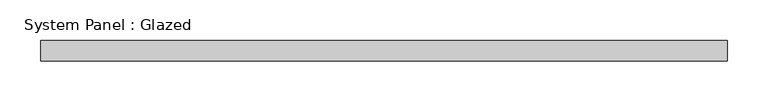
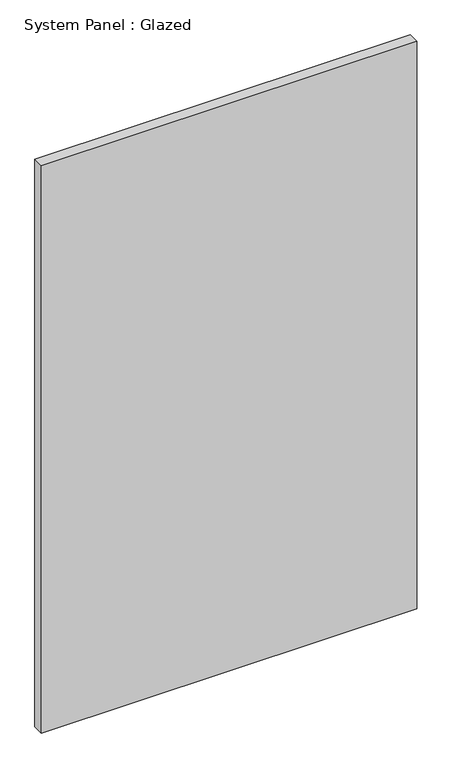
"""IFC4 building model written with IfcOpenShell, lengths in millimetres: plate geometry, System Panel : Glazed."""

from ifc_helpers import new_model, si_unit, origin, origin_with_axes, place, context, project, spatial, polyline, outline, extrude, source, transform, mapped, element, save


def system_panel_glazed_45ebec01(model_context):
    return source(origin(), model_context, "Body", "SweptSolid", [
        extrude(outline(polyline([(419.3790789, 24.5), (-419.3790789, 24.5), (-419.3790789, 49.5), (419.3790789, 49.5), (419.3790789, 24.5)])), origin_with_axes(), (0.0, 0.0, 1.0), 1340.0),
    ])


if __name__ == "__main__":
    model = new_model("IFC4")
    model_context = context("Model", 3, world=origin())
    ifc_project = project(units=[si_unit("LENGTHUNIT", "METRE", prefix="MILLI")], contexts=[model_context])
    site = spatial("IfcSite", under=ifc_project)
    building = spatial("IfcBuilding", under=site)
    placement = place(None, origin())
    system_panel_glazed_shape = system_panel_glazed_45ebec01(model_context)
    element("IfcPlate", 1, ObjectType="System Panel : Glazed", at=placement, inside=building, context=model_context, shape_type="MappedRepresentation", body=[
        mapped(system_panel_glazed_shape, transform((0.0, 0.0, 0.0), x_axis=(1.0, 0.0, 0.0), y_axis=(0.0, 1.0, 0.0), z_axis=(0.0, 0.0, 1.0))),
    ])
    save(model, "model.ifc")
